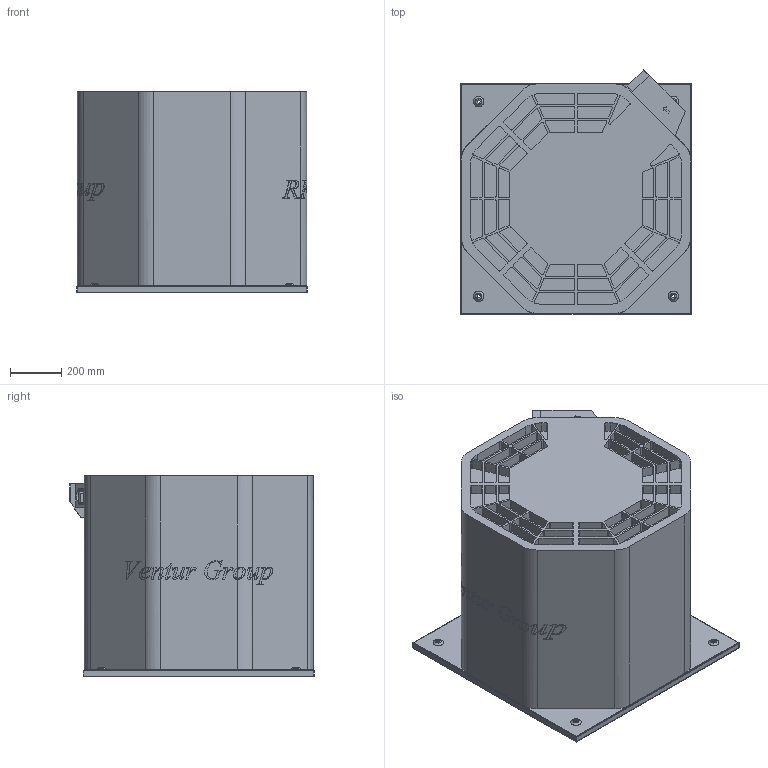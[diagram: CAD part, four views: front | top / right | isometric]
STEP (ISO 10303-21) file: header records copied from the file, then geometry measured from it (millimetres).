
FILE_DESCRIPTION(/* description */ (''),/* implementation_level */ '2;1');
FILE_NAME(/* name */ 'E:\Mariusz\Modele uproszczone\RFHT\RFHT_x_500 423534070\RFHT_x_500 423534070\RFHT_x_500 423534070.stp',/* time_stamp */ '2018-06-15T09:56:27+02:00',/* author */ ('M.Janczarek'),/* organization */ (''),/* preprocessor_version */ 'ST-DEVELOPER v16.5',/* originating_system */ 'Autodesk Inventor 2017',/* authorisation */ '');
FILE_SCHEMA (('AUTOMOTIVE_DESIGN { 1 0 10303 214 3 1 1 }'));
Products named in the file (1): RFHT_x_500 423534070
Bounding box: 900.07 x 952.99 x 783.5 mm (x, y, z)
Volume: 495921542.4 mm3; surface area: 4724825.3 mm2
Topology: 1 solids, 1 shells, 1610 faces, 4427 edges, 2916 vertices
Faces by surface type: plane 884, bspline 368, cylinder 276, cone 64, sphere 12, torus 6
Full cylindrical faces by diameter (mm): 6.186 x1, 12.4 x4, 13.5 x1, 14.5 x2, 20 x1, 23 x1, 24 x2, 27 x2, 30.5 x2, 52 x1, 55 x1, 56.5 x1, 60 x1, 456 x1
Entity records: 55089 total; most frequent: CARTESIAN_POINT 15728, ORIENTED_EDGE 8736, DIRECTION 6814, EDGE_CURVE 4368, VERTEX_POINT 2900, LINE 2642, VECTOR 2642, AXIS2_PLACEMENT_3D 2086
